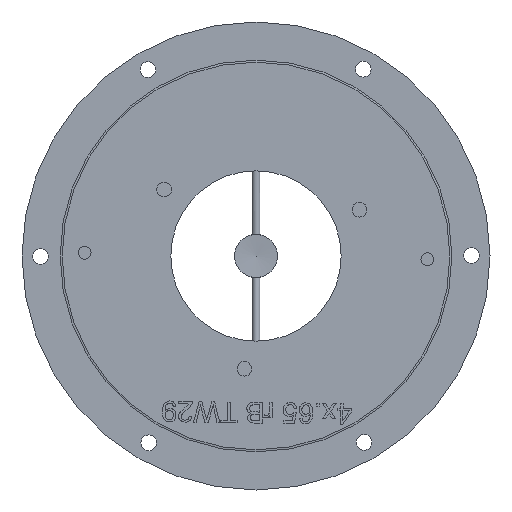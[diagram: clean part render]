
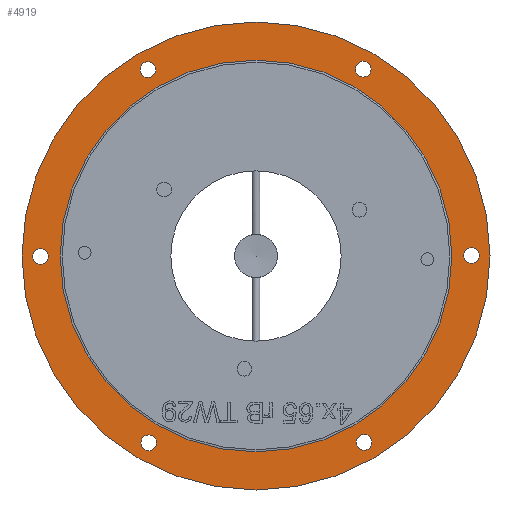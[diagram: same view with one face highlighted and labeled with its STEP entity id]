
A CAD part, front view. The second image highlights one B-rep face of the part: STEP entity #4919.
In plain terms, the highlighted planar face has unit normal (0, -1, 0).
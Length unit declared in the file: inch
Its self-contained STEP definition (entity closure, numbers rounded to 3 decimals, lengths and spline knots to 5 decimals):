
#46=FACE_BOUND('',#1741,.T.);
#47=FACE_BOUND('',#1742,.T.);
#48=FACE_BOUND('',#1743,.T.);
#49=FACE_BOUND('',#1744,.T.);
#50=FACE_BOUND('',#1745,.T.);
#51=FACE_BOUND('',#1746,.T.);
#52=FACE_BOUND('',#1747,.T.);
#289=PLANE('',#5127);
#1135=CIRCLE('',#5080,0.08);
#1146=CIRCLE('',#5095,0.08);
#1149=CIRCLE('',#5101,0.08);
#1152=CIRCLE('',#5107,0.08);
#1155=CIRCLE('',#5113,0.08);
#1158=CIRCLE('',#5119,0.08);
#1161=CIRCLE('',#5125,2.);
#1163=CIRCLE('',#5128,2.39);
#1435=FACE_OUTER_BOUND('',#1740,.T.);
#1740=EDGE_LOOP('',(#4615));
#1741=EDGE_LOOP('',(#4616));
#1742=EDGE_LOOP('',(#4617));
#1743=EDGE_LOOP('',(#4618));
#1744=EDGE_LOOP('',(#4619));
#1745=EDGE_LOOP('',(#4620));
#1746=EDGE_LOOP('',(#4621));
#1747=EDGE_LOOP('',(#4622));
#2472=VERTEX_POINT('',#9643);
#2483=VERTEX_POINT('',#9671);
#2486=VERTEX_POINT('',#9682);
#2489=VERTEX_POINT('',#9693);
#2492=VERTEX_POINT('',#9704);
#2495=VERTEX_POINT('',#9715);
#2499=VERTEX_POINT('',#9727);
#2500=VERTEX_POINT('',#9732);
#3172=EDGE_CURVE('',#2472,#2472,#1135,.T.);
#3185=EDGE_CURVE('',#2483,#2483,#1146,.T.);
#3190=EDGE_CURVE('',#2486,#2486,#1149,.T.);
#3195=EDGE_CURVE('',#2489,#2489,#1152,.T.);
#3200=EDGE_CURVE('',#2492,#2492,#1155,.T.);
#3205=EDGE_CURVE('',#2495,#2495,#1158,.T.);
#3210=EDGE_CURVE('',#2499,#2499,#1161,.T.);
#3212=EDGE_CURVE('',#2500,#2500,#1163,.T.);
#4615=ORIENTED_EDGE('',*,*,#3212,.F.);
#4616=ORIENTED_EDGE('',*,*,#3172,.T.);
#4617=ORIENTED_EDGE('',*,*,#3185,.T.);
#4618=ORIENTED_EDGE('',*,*,#3190,.T.);
#4619=ORIENTED_EDGE('',*,*,#3195,.T.);
#4620=ORIENTED_EDGE('',*,*,#3200,.T.);
#4621=ORIENTED_EDGE('',*,*,#3205,.T.);
#4622=ORIENTED_EDGE('',*,*,#3210,.T.);
#4919=ADVANCED_FACE('',(#1435,#46,#47,#48,#49,#50,#51,#52),#289,.T.);
#5080=AXIS2_PLACEMENT_3D('',#9645,#5800,#5801);
#5095=AXIS2_PLACEMENT_3D('',#9673,#5832,#5833);
#5101=AXIS2_PLACEMENT_3D('',#9684,#5846,#5847);
#5107=AXIS2_PLACEMENT_3D('',#9695,#5860,#5861);
#5113=AXIS2_PLACEMENT_3D('',#9706,#5874,#5875);
#5119=AXIS2_PLACEMENT_3D('',#9717,#5888,#5889);
#5125=AXIS2_PLACEMENT_3D('',#9729,#5902,#5903);
#5127=AXIS2_PLACEMENT_3D('',#9731,#5906,#5907);
#5128=AXIS2_PLACEMENT_3D('',#9733,#5908,#5909);
#5800=DIRECTION('center_axis',(0.,1.,0.));
#5801=DIRECTION('ref_axis',(0.5,0.,0.866));
#5832=DIRECTION('center_axis',(0.,1.,0.));
#5833=DIRECTION('ref_axis',(-0.5,0.,0.866));
#5846=DIRECTION('center_axis',(0.,1.,0.));
#5847=DIRECTION('ref_axis',(-1.,0.,0.));
#5860=DIRECTION('center_axis',(0.,1.,0.));
#5861=DIRECTION('ref_axis',(-0.5,0.,-0.866));
#5874=DIRECTION('center_axis',(0.,1.,0.));
#5875=DIRECTION('ref_axis',(0.5,0.,-0.866));
#5888=DIRECTION('center_axis',(0.,1.,0.));
#5889=DIRECTION('ref_axis',(1.,0.,0.));
#5902=DIRECTION('center_axis',(0.,1.,0.));
#5903=DIRECTION('ref_axis',(1.,0.,0.));
#5906=DIRECTION('center_axis',(0.,-1.,0.));
#5907=DIRECTION('ref_axis',(0.,0.,-1.));
#5908=DIRECTION('center_axis',(0.,1.,0.));
#5909=DIRECTION('ref_axis',(-1.,0.,0.));
#9643=CARTESIAN_POINT('',(-1.13573,0.4,-1.977));
#9645=CARTESIAN_POINT('Origin',(-1.09573,0.4,-1.90772));
#9671=CARTESIAN_POINT('',(1.14427,0.4,-1.97207));
#9673=CARTESIAN_POINT('Origin',(1.10427,0.4,-1.90279));
#9682=CARTESIAN_POINT('',(2.27999,0.4,0.00493));
#9684=CARTESIAN_POINT('Origin',(2.19999,0.4,0.00493));
#9693=CARTESIAN_POINT('',(1.13573,0.4,1.977));
#9695=CARTESIAN_POINT('Origin',(1.09573,0.4,1.90772));
#9704=CARTESIAN_POINT('',(-1.14427,0.4,1.97207));
#9706=CARTESIAN_POINT('Origin',(-1.10427,0.4,1.90279));
#9715=CARTESIAN_POINT('',(-2.27999,0.4,-0.00493));
#9717=CARTESIAN_POINT('Origin',(-2.19999,0.4,-0.00493));
#9727=CARTESIAN_POINT('',(2.,0.4,0.));
#9729=CARTESIAN_POINT('Origin',(0.,0.4,0.));
#9731=CARTESIAN_POINT('Origin',(-2.39,0.4,0.));
#9732=CARTESIAN_POINT('',(2.39,0.4,0.));
#9733=CARTESIAN_POINT('Origin',(0.,0.4,0.));
